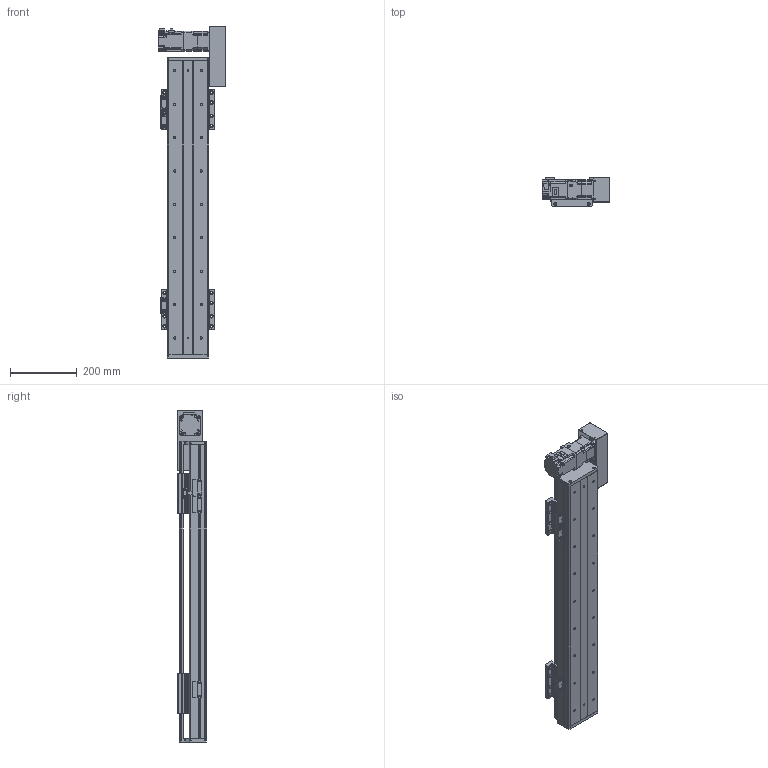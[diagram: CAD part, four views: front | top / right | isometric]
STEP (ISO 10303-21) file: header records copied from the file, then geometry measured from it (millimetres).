
FILE_DESCRIPTION(/* description */ (''),/* implementation_level */ '2;1');
FILE_NAME(/* name */ 'C:\Users\PC\Desktop\3D도면\STEP\STEP\DSB125-R2G-W0600-L.stp',/* time_stamp */ '2018-06-13T14:12:47+09:00',/* author */ ('PC'),/* organization */ (''),/* preprocessor_version */ 'ST-DEVELOPER v16.5',/* originating_system */ 'Autodesk Inventor 2017',/* authorisation */ '');
FILE_SCHEMA (('AUTOMOTIVE_DESIGN { 1 0 10303 214 3 1 1 }'));
Length unit declared in the file: millimetre
Products named in the file (12): DSB125-L2G-W0600-R_MIR; DSB125-BASE_MIR; DSB125-FRONT COVER_MIR; DSB125-REAR COVER_MIR; DSB125-UP COVER_MIR; DSB125-TABLE(MSB15S)_MIR; hg-kr23__MIR; ab0601-p0401200402_MIR; 13-BELT COVER_MIR; DSR125-SENSOR DOG_MIR; pm-y65_step_MIR; SENSOR BRACKET(EE-SX674A)_MIR
Assembly tree (16 placements, depth 2):
  DSB125-L2G-W0600-R_MIR
    DSB125-BASE_MIR
    DSB125-FRONT COVER_MIR
    DSB125-REAR COVER_MIR
    DSB125-UP COVER_MIR
    DSB125-TABLE(MSB15S)_MIR  x2
    hg-kr23__MIR
    ab0601-p0401200402_MIR
    13-BELT COVER_MIR
    DSR125-SENSOR DOG_MIR
    pm-y65_step_MIR  x3
    SENSOR BRACKET(EE-SX674A)_MIR  x3
Bounding box: 202.1 x 88 x 994 mm (x, y, z)
Volume: 3697010.1 mm3; surface area: 1067230.5 mm2
Topology: 17 solids, 17 shells, 1647 faces, 4470 edges, 2948 vertices
Faces by surface type: plane 903, cylinder 624, cone 108, sphere 8, torus 4
Full cylindrical faces by diameter (mm): 2.459 x20, 3.242 x16, 3.5 x6, 4 x1, 4.134 x16, 4.2 x4, 4.3 x1, 4.5 x50, 4.917 x20, 5 x22, 5.3 x1, 5.5 x4, 5.6 x8, 5.8 x4, 5.9 x8, 6 x4, 6.6 x22, 6.647 x18, 7.5 x32, 8.5 x8, 8.7 x1, 11 x22, 14 x1, 16 x2, 17 x1, 20 x1, 47 x1, 50 x3
Entity records: 35717 total; most frequent: CARTESIAN_POINT 6447, DIRECTION 6058, ORIENTED_EDGE 5450, EDGE_CURVE 2725, AXIS2_PLACEMENT_3D 2217, VERTEX_POINT 1934, EDGE_LOOP 1645, LINE 1624
